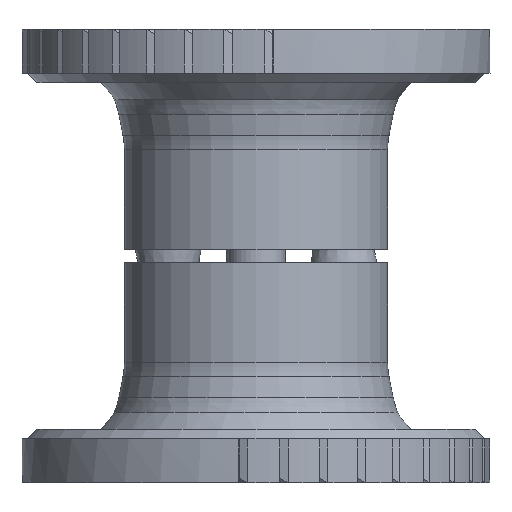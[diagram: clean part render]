
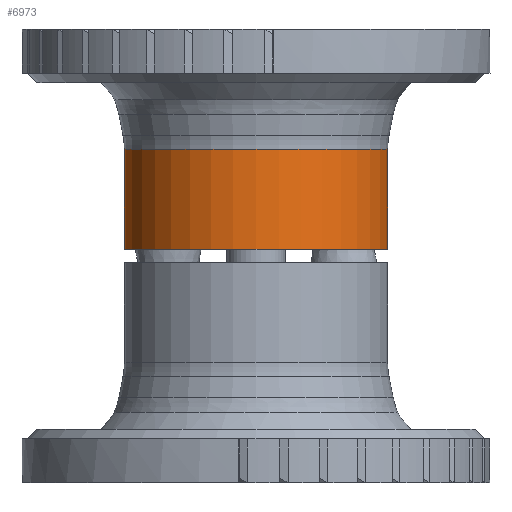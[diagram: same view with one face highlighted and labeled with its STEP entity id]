
A CAD part, left-side view. The second image highlights one B-rep face of the part: STEP entity #6973.
In plain terms, the highlighted cylindrical face has radius 9 mm (diameter 18 mm), a partial arc.
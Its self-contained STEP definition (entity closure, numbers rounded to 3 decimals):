
#475=FACE_OUTER_BOUND('',#888,.T.);
#888=EDGE_LOOP('',(#4608,#4609,#4610,#4611));
#1362=CIRCLE('',#7403,9.);
#1367=CIRCLE('',#7417,9.);
#1537=LINE('',#9807,#2133);
#1538=LINE('',#9810,#2134);
#2133=VECTOR('',#8016,6.837);
#2134=VECTOR('',#8019,6.837);
#2937=VERTEX_POINT('',#9746);
#2938=VERTEX_POINT('',#9751);
#2952=VERTEX_POINT('',#9806);
#2953=VERTEX_POINT('',#9808);
#3578=EDGE_CURVE('',#2938,#2937,#1362,.T.);
#3598=EDGE_CURVE('',#2938,#2952,#1537,.T.);
#3599=EDGE_CURVE('',#2953,#2952,#1367,.T.);
#3600=EDGE_CURVE('',#2937,#2953,#1538,.T.);
#4608=ORIENTED_EDGE('',*,*,#3578,.F.);
#4609=ORIENTED_EDGE('',*,*,#3598,.T.);
#4610=ORIENTED_EDGE('',*,*,#3599,.F.);
#4611=ORIENTED_EDGE('',*,*,#3600,.F.);
#6482=CYLINDRICAL_SURFACE('',#7416,9.);
#6973=ADVANCED_FACE('',(#475),#6482,.T.);
#7403=AXIS2_PLACEMENT_3D('',#9753,#7976,#7977);
#7416=AXIS2_PLACEMENT_3D('',#9805,#8014,#8015);
#7417=AXIS2_PLACEMENT_3D('',#9809,#8017,#8018);
#7976=DIRECTION('center_axis',(0.,0.,1.));
#7977=DIRECTION('ref_axis',(-1.,0.,0.));
#8014=DIRECTION('center_axis',(0.,0.,1.));
#8015=DIRECTION('ref_axis',(0.,-1.,0.));
#8016=DIRECTION('',(0.,0.,-1.));
#8017=DIRECTION('center_axis',(0.,0.,-1.));
#8018=DIRECTION('ref_axis',(0.,-1.,0.));
#8019=DIRECTION('',(0.,0.,-1.));
#9746=CARTESIAN_POINT('',(8.798,-1.743,7.037));
#9751=CARTESIAN_POINT('',(8.798,16.257,7.037));
#9753=CARTESIAN_POINT('Origin',(8.798,7.257,7.037));
#9805=CARTESIAN_POINT('Origin',(8.798,7.257,0.2));
#9806=CARTESIAN_POINT('',(8.798,16.257,0.2));
#9807=CARTESIAN_POINT('',(8.798,16.257,0.2));
#9808=CARTESIAN_POINT('',(8.798,-1.743,0.2));
#9809=CARTESIAN_POINT('Origin',(8.798,7.257,0.2));
#9810=CARTESIAN_POINT('',(8.798,-1.743,0.2));
